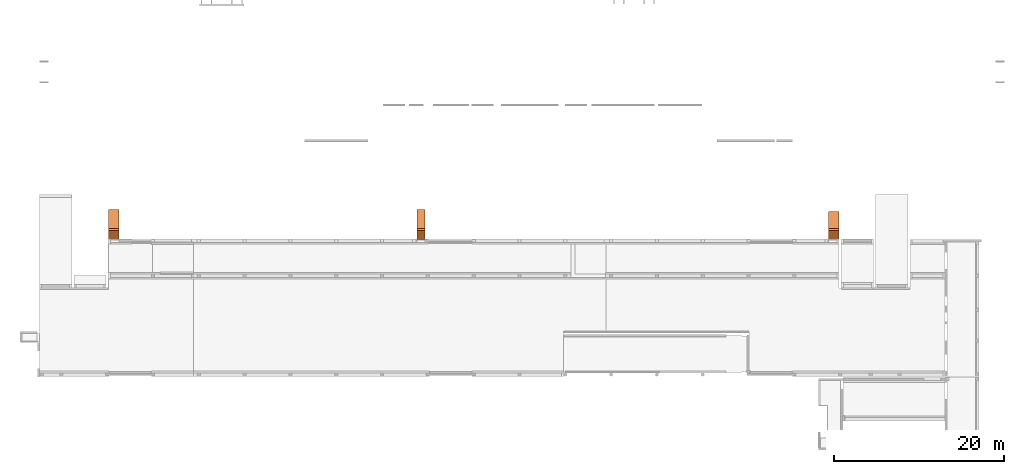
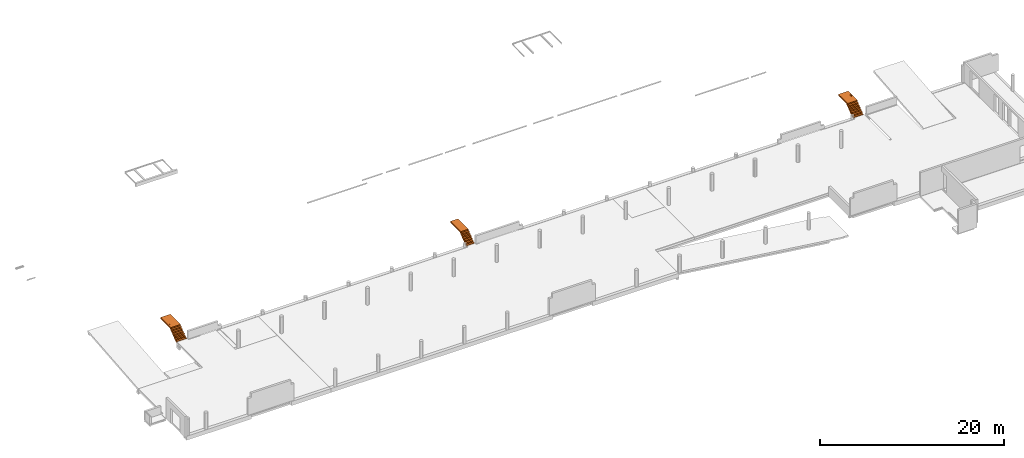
# One storey, part 9 of 9: 3 proxies.
"""IFC2X3 building model written with IfcOpenShell, lengths in millimetres."""

from ifc_helpers import new_model, entity, si_unit, converted_unit, derived_unit, direction, frame, origin, place, context, subcontext, project, spatial, polyline, outline, extrude, source, transform, mapped, material, type_object, type_shapes, element, save


model = new_model("IFC2X3")

# Units and contexts
model_context = context("Model", 3, precision=0.01, world=origin(), true_north=direction((6.12303176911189e-17, 1.0)))
body_context = subcontext(model_context, "Body", "Model", "MODEL_VIEW")
ifc_project = project(units=[si_unit("LENGTHUNIT", "METRE", prefix="MILLI"), si_unit("AREAUNIT", "SQUARE_METRE"), si_unit("VOLUMEUNIT", "CUBIC_METRE"), converted_unit("PLANEANGLEUNIT", "DEGREE", entity("IfcRatioMeasure", 0.0174532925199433), si_unit("PLANEANGLEUNIT", "RADIAN"), dimensions=[0, 0, 0, 0, 0, 0, 0]), si_unit("MASSUNIT", "GRAM", prefix="KILO"), derived_unit("MASSDENSITYUNIT", [(si_unit("MASSUNIT", "GRAM", prefix="KILO"), 1), (si_unit("LENGTHUNIT", "METRE"), -3)]), si_unit("TIMEUNIT", "SECOND"), si_unit("FREQUENCYUNIT", "HERTZ"), si_unit("THERMODYNAMICTEMPERATUREUNIT", "DEGREE_CELSIUS"), derived_unit("THERMALTRANSMITTANCEUNIT", [(si_unit("MASSUNIT", "GRAM", prefix="KILO"), 1), (si_unit("THERMODYNAMICTEMPERATUREUNIT", "KELVIN"), -1), (si_unit("TIMEUNIT", "SECOND"), -3)]), derived_unit("VOLUMETRICFLOWRATEUNIT", [(si_unit("LENGTHUNIT", "METRE"), 3), (si_unit("TIMEUNIT", "SECOND"), -1)]), si_unit("ELECTRICCURRENTUNIT", "AMPERE"), si_unit("ELECTRICVOLTAGEUNIT", "VOLT"), si_unit("POWERUNIT", "WATT"), si_unit("FORCEUNIT", "NEWTON", prefix="KILO"), si_unit("ILLUMINANCEUNIT", "LUX"), si_unit("LUMINOUSFLUXUNIT", "LUMEN"), si_unit("LUMINOUSINTENSITYUNIT", "CANDELA"), derived_unit("USERDEFINED", [(si_unit("MASSUNIT", "GRAM", prefix="KILO"), -1), (si_unit("LENGTHUNIT", "METRE"), -2), (si_unit("TIMEUNIT", "SECOND"), 3), (si_unit("LUMINOUSFLUXUNIT", "LUMEN"), 1)]), derived_unit("LINEARVELOCITYUNIT", [(si_unit("LENGTHUNIT", "METRE"), 1), (si_unit("TIMEUNIT", "SECOND"), -1)]), si_unit("PRESSUREUNIT", "PASCAL"), derived_unit("USERDEFINED", [(si_unit("LENGTHUNIT", "METRE"), -2), (si_unit("MASSUNIT", "GRAM", prefix="KILO"), 1), (si_unit("TIMEUNIT", "SECOND"), -2)])], contexts=[model_context])

# Site, building, storey
site_placement = place(None, origin())
site = spatial("IfcSite", under=ifc_project, at=site_placement, Name="Default", CompositionType="ELEMENT")
building_placement = place(site_placement, origin())
building = spatial("IfcBuilding", under=site, at=building_placement, Name="niet gebruiken", CompositionType="ELEMENT")
storey_placement = place(building_placement, frame((0.0, 0.0, 2770.0)))
storey = spatial("IfcBuildingStorey", under=building, at=storey_placement, Name="00a eerste tussenverdieping", CompositionType="ELEMENT", Elevation=2770.00000000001)

# Proxies
building_element_proxy_type_1 = type_object("IfcBuildingElementProxyType", Name="NLRS_24.11_GM_UN_prefab trap parking bordes l=2020_gen", PredefinedType="NOTDEFINED")
shared_shape_1 = source(origin(), body_context, "Body", "SweptSolid", [
    extrude(outline(polyline([(414.133931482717, 276.282051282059), (654.133931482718, 276.282051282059), (654.133931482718, 321.282051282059), (634.133931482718, 449.615384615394), (874.133931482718, 449.615384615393), (874.133931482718, 579.615384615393), (774.133931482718, 579.615384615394), (774.133931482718, 659.615384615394), (618.344822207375, 659.615384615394), (-737.559177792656, -410.384615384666), (-2465.86606851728, -410.384615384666), (-2465.86606851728, -590.384615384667), (-445.866068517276, -590.384615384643), (-445.866068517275, -545.384615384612), (-465.866068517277, -417.051282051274), (-225.866068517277, -417.051282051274), (-225.866068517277, -372.051282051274), (-245.866068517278, -243.71794871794), (-5.8660685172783, -243.71794871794), (-5.8660685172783, -198.717948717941), (-25.8660685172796, -70.3846153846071), (214.13393148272, -70.3846153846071), (214.13393148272, -25.3846153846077), (194.133931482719, 102.948717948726), (434.133931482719, 102.948717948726), (434.133931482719, 147.948717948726), (414.133931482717, 276.282051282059)])), frame((-1230.0, 654.133931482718, 449.615384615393), z_axis=(1.0, 0.0, 0.0), x_axis=(0.0, -1.0, 0.0)), (0.0, 0.0, 1.0), 1230.0),
    extrude(outline(polyline([(-60.2801699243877, -28.6531383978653), (-60.2801699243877, -47.488696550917), (90.4042953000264, -47.488696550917), (90.4042953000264, -28.6531383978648), (34.5230202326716, -28.6531383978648), (48.18063930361, -15.4645688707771), (52.7331789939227, 0.924574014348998), (48.6312947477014, 19.7969203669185), (37.098194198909, 34.438623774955), (19.1639469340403, 43.4333385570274), (-3.29524887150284, 46.689094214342), (-28.4399832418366, 43.3183754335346), (-47.1467826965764, 33.2062190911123), (-58.7626566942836, 18.3667791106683), (-62.6346146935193, 0.814209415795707), (-57.6406166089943, -15.9336184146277), (-42.6586223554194, -28.6531383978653), (-60.2801699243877, -28.6531383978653)]), holes=[polyline([(-4.17816565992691, -28.653138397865), (-19.8867268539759, -27.3655514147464), (-30.5185165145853, -23.5027904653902), (-40.4789215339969, -13.6343559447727), (-43.7990565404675, -0.804471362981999), (-41.3526412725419, 10.066441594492), (-34.0133954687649, 19.3554619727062), (-21.8273043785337, 25.7290175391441), (-4.84035325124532, 27.85353606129), (12.3949182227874, 25.8163895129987), (24.4430535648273, 19.7049498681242), (31.5339790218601, 10.705636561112), (33.897620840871, 0.00486902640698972), (31.4512055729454, -10.866043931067), (24.1119597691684, -20.1550643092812), (12.1465978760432, -26.5286198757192), (-4.17816565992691, -28.653138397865)])]), frame((-145.872661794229, 1716.4187180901, 1040.0), z_axis=(0.0, 0.0, -1.0), x_axis=(-1.0, 0.0, 0.0)), (0.0, 0.0, -1.0), 10.0),
    extrude(outline(polyline([(-11.1946000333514, -52.2426443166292), (13.7256178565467, -52.2426443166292), (33.0962748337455, -44.5759588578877), (46.302284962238, -30.4665992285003), (52.7285623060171, -11.1385767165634), (52.8795704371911, 2.26160042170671), (49.539603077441, 15.0586597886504), (42.9102470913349, 26.3612191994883), (33.1930893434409, 35.2778964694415), (19.4724914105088, 41.8007990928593), (0.832814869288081, 45.9220345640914), (-22.8762356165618, 45.717254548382), (-41.8930612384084, 37.8901775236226), (-55.142589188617, 23.7682718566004), (-61.5497466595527, 4.67900591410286), (-60.9951142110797, -13.6515433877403), (-53.9645370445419, -29.8701936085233), (-37.0646721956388, -44.5487589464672), (-11.1946000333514, -52.2426443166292)]), holes=[polyline([(-8.64857835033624, -33.5799173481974), (-25.2263685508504, -29.0848574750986), (-36.3325046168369, -20.9461821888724), (-42.1575488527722, -10.2052592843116), (-42.8920635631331, 2.09654344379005), (-38.8516378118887, 13.6120893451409), (-30.3014219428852, 22.3586496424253), (-17.5331679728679, 27.2345846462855), (-0.838627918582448, 27.1382546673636), (16.1172354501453, 22.5908646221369), (27.4101305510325, 14.4263394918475), (33.3060231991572, 3.69417972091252), (34.0708792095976, -8.55611424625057), (30.0134303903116, -20.1946478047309), (21.4625840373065, -28.9457632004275), (8.53602088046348, -33.7580048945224), (-8.64857835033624, -33.5799173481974)])]), frame((-136.995825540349, 1832.87305605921, 1040.0), z_axis=(0.0, 0.0, 1.0), x_axis=(0.990556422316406, 0.137105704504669, 0.0)), (0.0, 0.0, 1.0), 10.0),
    extrude(outline(polyline([(-11.1946000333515, -52.2426443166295), (13.7256178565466, -52.2426443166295), (33.0962748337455, -44.5759588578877), (46.3022849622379, -30.4665992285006), (52.7285623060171, -11.1385767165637), (52.8795704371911, 2.26160042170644), (49.539603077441, 15.0586597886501), (42.9102470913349, 26.3612191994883), (33.1930893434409, 35.2778964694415), (19.4724914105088, 41.8007990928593), (0.832814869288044, 45.9220345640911), (-22.8762356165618, 45.717254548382), (-41.8930612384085, 37.8901775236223), (-55.142589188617, 23.7682718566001), (-61.5497466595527, 4.67900591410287), (-60.9951142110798, -13.6515433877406), (-53.9645370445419, -29.8701936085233), (-37.0646721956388, -44.5487589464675), (-11.1946000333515, -52.2426443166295)]), holes=[polyline([(-8.64857835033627, -33.5799173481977), (-25.2263685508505, -29.0848574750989), (-36.3325046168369, -20.9461821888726), (-42.1575488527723, -10.2052592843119), (-42.8920635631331, 2.09654344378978), (-38.8516378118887, 13.6120893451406), (-30.3014219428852, 22.358649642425), (-17.5331679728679, 27.2345846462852), (-0.838627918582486, 27.1382546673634), (16.1172354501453, 22.5908646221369), (27.4101305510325, 14.4263394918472), (33.3060231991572, 3.69417972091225), (34.0708792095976, -8.55611424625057), (30.0134303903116, -20.1946478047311), (21.4625840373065, -28.9457632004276), (8.53602088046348, -33.7580048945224), (-8.64857835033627, -33.5799173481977)])]), frame((-136.995825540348, 1948.24084974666, 1040.0), z_axis=(0.0, 0.0, 1.0), x_axis=(0.990556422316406, 0.137105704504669, 0.0)), (0.0, 0.0, 1.0), 10.0),
    extrude(outline(polyline([(-26.1606546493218, -81.4207751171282), (-7.32509649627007, -81.4207751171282), (-7.32509649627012, -23.2586316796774), (-4.27167593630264, -1.25928836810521), (2.51574687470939, 9.041407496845), (13.1659306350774, 12.7570156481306), (26.4096824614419, 8.89425469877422), (32.700464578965, 25.7800382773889), (13.7913300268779, 31.5925738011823), (2.01910618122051, 27.9505420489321), (-9.67954126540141, 12.8673802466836), (-9.67954126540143, 29.238129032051), (-26.1606546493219, 29.238129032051), (-26.1606546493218, -81.4207751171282)])), frame((-167.013266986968, 2041.19405725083, 1040.0), z_axis=(0.0, 0.0, 1.0), x_axis=(0.0, 1.0, 0.0)), (0.0, 0.0, 1.0), 10.0),
    extrude(outline(polyline([(-46.0644855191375, -53.4306150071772), (48.1133052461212, -53.4306150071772), (48.1133052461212, -34.5950568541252), (1.06119806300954, -34.5950568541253), (-20.7174160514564, -34.5950568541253), (-11.8882481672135, -24.5150901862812), (45.7588604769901, 41.2254223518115), (45.7588604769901, 57.2282891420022), (-41.3555959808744, 57.2282891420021), (-41.3555959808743, 38.3927309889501), (-0.299965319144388, 38.3927309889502), (18.9402630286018, 38.3927309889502), (-46.0644855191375, -35.6987028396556), (-46.0644855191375, -53.4306150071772)])), frame((-139.023106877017, 2119.95900734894, 1040.0), z_axis=(0.0, 0.0, 1.0), x_axis=(0.0, 1.0, 0.0)), (0.0, 0.0, 1.0), 10.0),
    extrude(outline(polyline([(-11.1946000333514, -52.2426443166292), (13.7256178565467, -52.2426443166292), (33.0962748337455, -44.5759588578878), (46.302284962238, -30.4665992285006), (52.7285623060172, -11.1385767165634), (52.8795704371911, 2.26160042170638), (49.539603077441, 15.0586597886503), (42.9102470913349, 26.3612191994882), (33.193089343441, 35.2778964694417), (19.4724914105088, 41.8007990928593), (0.832814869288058, 45.9220345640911), (-22.8762356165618, 45.717254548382), (-41.8930612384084, 37.8901775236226), (-55.1425891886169, 23.7682718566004), (-61.5497466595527, 4.67900591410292), (-60.9951142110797, -13.6515433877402), (-53.9645370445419, -29.8701936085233), (-37.0646721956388, -44.5487589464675), (-11.1946000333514, -52.2426443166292)]), holes=[polyline([(-8.6485783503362, -33.5799173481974), (-25.2263685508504, -29.0848574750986), (-36.3325046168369, -20.9461821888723), (-42.1575488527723, -10.2052592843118), (-42.8920635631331, 2.09654344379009), (-38.8516378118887, 13.6120893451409), (-30.3014219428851, 22.3586496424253), (-17.5331679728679, 27.2345846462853), (-0.838627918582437, 27.1382546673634), (16.1172354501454, 22.5908646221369), (27.4101305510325, 14.4263394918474), (33.3060231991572, 3.69417972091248), (34.0708792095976, -8.55611424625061), (30.0134303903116, -20.1946478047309), (21.4625840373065, -28.9457632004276), (8.53602088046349, -33.7580048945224), (-8.6485783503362, -33.5799173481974)])]), frame((-136.995825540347, 2235.4831115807, 1040.0), z_axis=(0.0, 0.0, 1.0), x_axis=(0.990556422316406, 0.137105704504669, 0.0)), (0.0, 0.0, 1.0), 10.0),
    extrude(outline(polyline([(-46.9540053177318, -73.7182963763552), (-28.1184471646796, -73.7182963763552), (-28.1184471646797, -15.0043299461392), (-25.9709360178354, 2.350503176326), (-19.5284025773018, 13.0650662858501), (-10.1244190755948, 18.6108873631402), (0.907442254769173, 20.4594943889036), (13.8384943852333, 17.1669505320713), (21.5088339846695, 8.35617674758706), (23.6793377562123, -8.30887763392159), (23.6793377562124, -73.7182963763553), (42.5148959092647, -73.7182963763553), (42.5148959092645, -5.77049186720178), (41.521614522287, 12.4396668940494), (35.874625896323, 26.2904240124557), (23.7345200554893, 35.7082030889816), (5.94742558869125, 39.2950525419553), (-13.7158670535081, 34.8436804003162), (-28.1184471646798, 21.4895639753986), (-28.1184471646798, 36.940607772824), (-46.954005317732, 36.9406077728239), (-46.9540053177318, -73.7182963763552)])), frame((-159.310788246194, 2349.22966975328, 1040.0), z_axis=(0.0, 0.0, 1.0), x_axis=(0.0, 1.0, 0.0)), (0.0, 0.0, 1.0), 10.0),
    extrude(outline(polyline([(-12.151923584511, -30.5627594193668), (-23.3028322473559, -45.4710024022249), (-8.67600558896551, -50.3662606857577), (6.18277634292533, -49.9698260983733), (20.8164252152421, -44.1721168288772), (34.7678526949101, -32.8635510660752), (47.4570640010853, -14.3885693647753), (51.2430729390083, 5.61202992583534), (45.9060763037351, 25.8663302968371), (31.2262708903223, 45.1024152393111), (10.9154740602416, 59.6770093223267), (-9.99269287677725, 64.667672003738), (-29.9463894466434, 60.6331852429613), (-47.393775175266, 48.1323309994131), (-58.8653278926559, 30.7635073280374), (-61.9660241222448, 11.0147969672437), (-56.1560561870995, -9.52443743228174), (-40.8956164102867, -29.2648332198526), (-37.1706876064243, -32.7160206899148), (21.6964908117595, 28.1133970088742), (29.5607979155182, 15.9656989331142), (31.7422008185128, 3.31507577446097), (28.7208128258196, -8.97205129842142), (20.9767472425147, -20.0292611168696), (5.30526907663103, -30.5627594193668), (-12.151923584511, -30.5627594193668)]), holes=[polyline([(8.16121838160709, 41.2120477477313), (-37.6840592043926, -6.16140575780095), (-43.063374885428, 2.58957596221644), (-44.7058228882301, 11.128642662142), (-41.8277013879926, 23.6248066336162), (-33.8073361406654, 35.0865524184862), (-23.7122716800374, 42.9855035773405), (-12.6145549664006, 46.8552978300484), (-1.62109020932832, 46.3720932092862), (8.16121838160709, 41.2120477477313)])]), frame((-131.076318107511, 2464.70623388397, 1040.0), z_axis=(0.0, 0.0, -1.0), x_axis=(0.718602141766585, -0.695421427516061, 0.0)), (0.0, 0.0, -1.0), 10.0),
])
type_shapes(building_element_proxy_type_1, [shared_shape_1])
proxy_1_placement = place(storey_placement, frame((102455.0, 25316.0, 0.0)))
element("IfcBuildingElementProxy", 1, at=proxy_1_placement, inside=storey, type_object=building_element_proxy_type_1, Name="NLRS_24.11_GM_UN_prefab trap parking_gen:NLRS_24.11_GM_UN_prefab trap parking bordes l=2020_gen", ObjectType="NLRS_24.11_GM_UN_prefab trap parking bordes l=2020_gen", context=body_context, shape_type="MappedRepresentation", body=[
    mapped(shared_shape_1, transform((0.0, 0.0, 0.0), scale=1.0)),
])
building_element_proxy_type_2 = type_object("IfcBuildingElementProxyType", Name="NLRS_24.11_GM_UN_prefab trap parking bordes l=2245_gen", PredefinedType="NOTDEFINED")
shared_shape_2 = source(origin(), body_context, "Body", "SweptSolid", [
    extrude(outline(polyline([(431.44162379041, 276.282051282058), (671.441623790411, 276.282051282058), (671.441623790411, 321.282051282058), (651.44162379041, 449.615384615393), (891.44162379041, 449.615384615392), (891.441623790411, 579.615384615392), (791.44162379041, 579.615384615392), (791.441623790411, 659.615384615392), (635.652514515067, 659.615384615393), (-720.251485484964, -410.384615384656), (-2673.55837620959, -410.384615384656), (-2673.55837620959, -590.384615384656), (-428.558376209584, -590.384615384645), (-428.558376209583, -545.384615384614), (-448.558376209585, -417.051282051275), (-208.558376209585, -417.051282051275), (-208.558376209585, -372.051282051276), (-228.558376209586, -243.717948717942), (11.4416237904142, -243.717948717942), (11.4416237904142, -198.717948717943), (-8.55837620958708, -70.3846153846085), (231.441623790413, -70.3846153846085), (231.441623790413, -25.384615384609), (211.441623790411, 102.948717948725), (451.441623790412, 102.948717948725), (451.441623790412, 147.948717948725), (431.44162379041, 276.282051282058)])), frame((-950.0, 671.441623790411, 449.615384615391), z_axis=(1.0, 0.0, 0.0), x_axis=(0.0, -1.0, 0.0)), (0.0, 0.0, 1.0), 949.999999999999),
])
type_shapes(building_element_proxy_type_2, [shared_shape_2])
proxy_2_placement = place(storey_placement, frame((53670.0, 25316.0, 0.0)))
element("IfcBuildingElementProxy", 2, at=proxy_2_placement, inside=storey, type_object=building_element_proxy_type_2, Name="NLRS_24.11_GM_UN_prefab trap parking_gen:NLRS_24.11_GM_UN_prefab trap parking bordes l=2245_gen", ObjectType="NLRS_24.11_GM_UN_prefab trap parking bordes l=2245_gen", context=body_context, shape_type="MappedRepresentation", body=[
    mapped(shared_shape_2, transform((0.0, 0.0, 0.0), scale=1.0)),
])
ifc_material = material(Name="Analytical Floor Surface")
building_element_proxy_type_3 = type_object("IfcBuildingElementProxyType", Name="NLRS_24.11_GM_UN_prefab trap parking bordes l=2245 b=1230_gen", PredefinedType="NOTDEFINED", material=ifc_material)
shared_shape_3 = source(origin(), body_context, "Body", "SweptSolid", [
    extrude(outline(polyline([(-60.2801699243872, -28.6531383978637), (-60.2801699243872, -47.4886965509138), (90.4042953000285, -47.4886965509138), (90.4042953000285, -28.6531383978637), (34.5230202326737, -28.6531383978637), (48.180639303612, -15.4645688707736), (52.733178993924, 0.92457401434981), (48.631294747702, 19.7969203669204), (37.0981941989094, 34.4386237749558), (19.1639469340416, 43.4333385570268), (-3.2952488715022, 46.6890942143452), (-28.4399832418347, 43.3183754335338), (-47.1467826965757, 33.2062190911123), (-58.7626566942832, 18.3667791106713), (-62.634614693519, 0.81420941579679), (-57.6406166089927, -15.9336184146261), (-42.6586223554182, -28.6531383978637), (-60.2801699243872, -28.6531383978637)]), holes=[polyline([(-4.17816565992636, -28.6531383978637), (-19.8867268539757, -27.3655514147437), (-30.5185165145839, -23.502790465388), (-40.4789215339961, -13.6343559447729), (-43.7990565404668, -0.80447136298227), (-41.3526412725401, 10.0664415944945), (-34.0133954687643, 19.3554619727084), (-21.8273043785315, 25.7290175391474), (-4.84035325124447, 27.8535360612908), (12.394918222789, 25.8163895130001), (24.4430535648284, 19.7049498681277), (31.533979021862, 10.7056365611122), (33.8976208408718, 0.00486902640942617), (31.4512055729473, -10.8660439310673), (24.1119597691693, -20.1550643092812), (12.1465978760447, -26.5286198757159), (-4.17816565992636, -28.6531383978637)])]), frame((16489.7198300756, 27060.6079693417, 3810.0), z_axis=(0.0, 0.0, -1.0), x_axis=(-1.0, 0.0, 0.0)), (0.0, 0.0, -1.0), 9.99999999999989),
    extrude(outline(polyline([(-11.1946000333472, -52.2426443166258), (13.7256178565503, -52.2426443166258), (33.0962748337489, -44.5759588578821), (46.3022849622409, -30.4665992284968), (52.7285623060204, -11.138576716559), (52.879570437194, 2.26160042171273), (49.5396030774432, 15.0586597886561), (42.9102470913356, 26.3612191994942), (33.1930893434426, 35.2778964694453), (19.4724914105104, 41.8007990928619), (0.832814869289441, 45.9220345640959), (-22.8762356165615, 45.7172545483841), (-41.8930612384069, 37.8901775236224), (-55.1425891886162, 23.7682718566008), (-61.5497466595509, 4.67900591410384), (-60.9951142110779, -13.6515433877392), (-53.964537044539, -29.8701936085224), (-37.0646721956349, -44.5487589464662), (-11.1946000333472, -52.2426443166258)]), holes=[polyline([(-8.64857835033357, -33.5799173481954), (-25.2263685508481, -29.0848574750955), (-36.332504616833, -20.9461821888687), (-42.1575488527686, -10.2052592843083), (-42.8920635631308, 2.0965434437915), (-38.8516378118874, 13.6120893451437), (-30.3014219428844, 22.3586496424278), (-17.5331679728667, 27.2345846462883), (-0.838627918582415, 27.1382546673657), (16.1172354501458, 22.5908646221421), (27.4101305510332, 14.4263394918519), (33.3060231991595, 3.69417972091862), (34.0708792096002, -8.55611424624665), (30.0134303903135, -20.194647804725), (21.4625840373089, -28.9457632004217), (8.53602088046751, -33.7580048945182), (-8.64857835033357, -33.5799173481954)])]), frame((16498.5966663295, 27177.0623073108, 3810.0), z_axis=(0.0, 0.0, 1.0), x_axis=(0.99055642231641, 0.13710570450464, 0.0)), (0.0, 0.0, 1.0), 9.99999999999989),
    extrude(outline(polyline([(-11.1946000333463, -52.2426443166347), (13.7256178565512, -52.2426443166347), (33.0962748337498, -44.575958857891), (46.3022849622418, -30.4665992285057), (52.7285623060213, -11.1385767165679), (52.879570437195, 2.26160042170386), (49.5396030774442, 15.0586597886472), (42.9102470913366, 26.3612191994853), (33.1930893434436, 35.2778964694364), (19.4724914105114, 41.800799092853), (0.832814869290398, 45.922034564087), (-22.8762356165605, 45.7172545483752), (-41.8930612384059, 37.8901775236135), (-55.1425891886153, 23.7682718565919), (-61.54974665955, 4.67900591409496), (-60.9951142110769, -13.6515433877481), (-53.964537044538, -29.8701936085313), (-37.064672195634, -44.5487589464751), (-11.1946000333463, -52.2426443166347)]), holes=[polyline([(-8.64857835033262, -33.5799173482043), (-25.2263685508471, -29.0848574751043), (-36.3325046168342, -20.9461821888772), (-42.1575488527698, -10.2052592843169), (-42.8920635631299, 2.09654344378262), (-38.8516378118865, 13.6120893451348), (-30.3014219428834, 22.3586496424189), (-17.5331679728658, 27.2345846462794), (-0.838627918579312, 27.1382546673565), (16.1172354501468, 22.5908646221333), (27.4101305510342, 14.426339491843), (33.3060231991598, 3.69417972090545), (34.0708792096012, -8.55611424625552), (30.0134303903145, -20.1946478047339), (21.4625840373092, -28.9457632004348), (8.53602088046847, -33.7580048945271), (-8.64857835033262, -33.5799173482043)])]), frame((16498.5966663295, 27292.4301009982, 3810.0), z_axis=(0.0, 0.0, 1.0), x_axis=(0.99055642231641, 0.13710570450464, 0.0)), (0.0, 0.0, 1.0), 9.99999999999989),
    extrude(outline(polyline([(-26.1606546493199, -81.4207751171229), (-7.32509649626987, -81.4207751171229), (-7.32509649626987, -23.2586316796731), (-4.27167593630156, -1.25928836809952), (2.51574687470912, 9.04140749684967), (13.1659306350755, 12.7570156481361), (26.4096824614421, 8.89425469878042), (32.7004645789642, 25.7800382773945), (13.7913300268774, 31.5925738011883), (2.01910618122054, 27.9505420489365), (-9.67954126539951, 12.8673802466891), (-9.67954126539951, 29.2381290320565), (-26.1606546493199, 29.2381290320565), (-26.1606546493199, -81.4207751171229)])), frame((16468.5792248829, 27385.3833085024, 3810.0), z_axis=(0.0, 0.0, 1.0), x_axis=(0.0, 1.0, 0.0)), (0.0, 0.0, 1.0), 9.99999999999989),
    extrude(outline(polyline([(-46.0644855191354, -53.4306150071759), (48.1133052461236, -53.4306150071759), (48.1133052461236, -34.5950568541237), (1.06119806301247, -34.5950568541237), (-20.7174160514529, -34.5950568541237), (-11.8882481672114, -24.5150901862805), (45.7588604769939, 41.2254223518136), (45.7588604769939, 57.2282891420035), (-41.3555959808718, 57.2282891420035), (-41.3555959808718, 38.3927309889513), (-0.299965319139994, 38.3927309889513), (18.9402630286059, 38.3927309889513), (-46.0644855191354, -35.6987028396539), (-46.0644855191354, -53.4306150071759)])), frame((16496.5693849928, 27464.1482586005, 3810.0), z_axis=(0.0, 0.0, 1.0), x_axis=(0.0, 1.0, 0.0)), (0.0, 0.0, 1.0), 9.99999999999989),
    extrude(outline(polyline([(-11.1946000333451, -52.2426443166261), (13.7256178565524, -52.2426443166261), (33.096274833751, -44.5759588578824), (46.302284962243, -30.4665992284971), (52.7285623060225, -11.1385767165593), (52.8795704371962, 2.26160042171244), (49.5396030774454, 15.0586597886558), (42.9102470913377, 26.3612191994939), (33.1930893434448, 35.277896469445), (19.4724914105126, 41.8007990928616), (0.832814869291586, 45.9220345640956), (-22.8762356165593, 45.7172545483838), (-41.8930612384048, 37.8901775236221), (-55.1425891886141, 23.7682718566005), (-61.5497466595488, 4.67900591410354), (-60.9951142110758, -13.6515433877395), (-53.9645370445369, -29.8701936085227), (-37.0646721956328, -44.5487589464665), (-11.1946000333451, -52.2426443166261)]), holes=[polyline([(-8.64857835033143, -33.5799173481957), (-25.2263685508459, -29.0848574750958), (-36.3325046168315, -20.9461821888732), (-42.1575488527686, -10.2052592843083), (-42.8920635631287, 2.0965434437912), (-38.8516378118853, 13.6120893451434), (-30.3014219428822, 22.3586496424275), (-17.5331679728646, 27.234584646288), (-0.83862791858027, 27.1382546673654), (16.1172354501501, 22.5908646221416), (27.4101305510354, 14.4263394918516), (33.3060231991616, 3.69417972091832), (34.0708792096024, -8.55611424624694), (30.0134303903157, -20.1946478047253), (21.462584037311, -28.945763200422), (8.53602088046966, -33.7580048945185), (-8.64857835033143, -33.5799173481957)])]), frame((16498.5966663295, 27579.6723628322, 3810.0), z_axis=(0.0, 0.0, 1.0), x_axis=(0.99055642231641, 0.13710570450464, 0.0)), (0.0, 0.0, 1.0), 10.0000000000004),
    extrude(outline(polyline([(-46.9540053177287, -73.718296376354), (-28.1184471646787, -73.718296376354), (-28.1184471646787, -15.004329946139), (-25.9709360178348, 2.35050317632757), (-19.5284025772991, 13.0650662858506), (-10.1244190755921, 18.610887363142), (0.907442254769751, 20.459494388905), (13.8384943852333, 17.1669505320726), (21.5088339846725, 8.35617674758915), (23.6793377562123, -8.30887763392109), (23.6793377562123, -73.718296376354), (42.5148959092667, -73.718296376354), (42.5148959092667, -5.77049186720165), (41.5216145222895, 12.4396668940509), (35.8746258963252, 26.2904240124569), (23.7345200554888, 35.708203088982), (5.94742558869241, 39.2950525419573), (-13.7158670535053, 34.8436804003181), (-28.1184471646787, 21.4895639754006), (-28.1184471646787, 36.9406077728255), (-46.9540053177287, 36.9406077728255), (-46.9540053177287, -73.718296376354)])), frame((16476.2817036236, 27693.4189210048, 3810.0), z_axis=(0.0, 0.0, 1.0), x_axis=(0.0, 1.0, 0.0)), (0.0, 0.0, 1.0), 9.99999999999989),
    extrude(outline(polyline([(-12.1519235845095, -30.562759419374), (-23.3028322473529, -45.4710024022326), (-8.67600558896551, -50.3662606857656), (6.18277634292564, -49.9698260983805), (20.8164252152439, -44.1721168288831), (34.7678526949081, -32.8635510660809), (47.4570640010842, -14.3885693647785), (51.2430729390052, 5.61202992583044), (45.9060763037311, 25.8663302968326), (31.2262708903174, 45.1024152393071), (10.9154740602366, 59.6770093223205), (-9.99269287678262, 64.6676720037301), (-29.9463894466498, 60.6331852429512), (-47.3937751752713, 48.1323309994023), (-58.8653278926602, 30.7635073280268), (-61.9660241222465, 11.0147969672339), (-56.1560561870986, -9.52443743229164), (-40.8956164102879, -29.2648332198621), (-37.1706876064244, -32.7160206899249), (21.6964908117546, 28.113397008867), (29.5607979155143, 15.9656989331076), (31.7422008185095, 3.31507577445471), (28.7208128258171, -8.97205129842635), (20.9767472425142, -20.0292611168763), (5.3052690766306, -30.5627594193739), (-12.1519235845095, -30.562759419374)]), holes=[polyline([(8.16121838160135, 41.2120477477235), (-37.6840592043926, -6.16140575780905), (-43.0633748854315, 2.58957596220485), (-44.7058228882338, 11.1286426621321), (-41.8277013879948, 23.6248066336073), (-33.8073361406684, 35.0865524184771), (-23.7122716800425, 42.9855035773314), (-12.6145549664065, 46.8552978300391), (-1.62109020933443, 46.3720932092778), (8.16121838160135, 41.2120477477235)])]), frame((16504.5161737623, 27808.8954851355, 3810.0), z_axis=(0.0, 0.0, -1.0), x_axis=(0.718602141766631, -0.695421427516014, 0.0)), (0.0, 0.0, -1.0), 9.99999999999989),
    extrude(outline(polyline([(431.441623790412, 276.282051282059), (671.441623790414, 276.282051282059), (671.441623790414, 321.282051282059), (651.441623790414, 449.615384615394), (891.441623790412, 449.615384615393), (891.441623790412, 579.615384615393), (791.441623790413, 579.615384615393), (791.441623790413, 659.615384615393), (635.652514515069, 659.615384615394), (-720.25148548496, -410.384615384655), (-2673.55837620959, -410.384615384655), (-2673.55837620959, -590.384615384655), (-428.558376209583, -590.384615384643), (-428.558376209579, -545.384615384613), (-448.558376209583, -417.051282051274), (-208.558376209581, -417.051282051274), (-208.558376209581, -372.051282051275), (-228.558376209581, -243.717948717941), (11.4416237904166, -243.717948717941), (11.4416237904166, -198.717948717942), (-8.55837620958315, -70.3846153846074), (231.441623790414, -70.3846153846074), (231.441623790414, -25.3846153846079), (211.441623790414, 102.948717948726), (451.441623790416, 102.948717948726), (451.441623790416, 147.948717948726), (431.441623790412, 276.282051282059)])), frame((16345.0, 25987.4416237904, 3219.6153846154), z_axis=(1.0, 0.0, 0.0), x_axis=(0.0, -1.0, 0.0)), (0.0, 0.0, 1.0), 1230.0),
])
type_shapes(building_element_proxy_type_3, [shared_shape_3])
proxy_3_placement = place(storey_placement, frame((0.0, 0.0, -2770.0)))
element("IfcBuildingElementProxy", 3, at=proxy_3_placement, inside=storey, type_object=building_element_proxy_type_3, material=ifc_material, Name="NLRS_24.11_GM_UN_prefab trap parking_gen:NLRS_24.11_GM_UN_prefab trap parking bordes l=2245 b=1230_gen", ObjectType="NLRS_24.11_GM_UN_prefab trap parking bordes l=2245 b=1230_gen", context=body_context, shape_type="MappedRepresentation", body=[
    mapped(shared_shape_3, transform((0.0, 0.0, 0.0), scale=1.0)),
])

save(model, "model.ifc")
